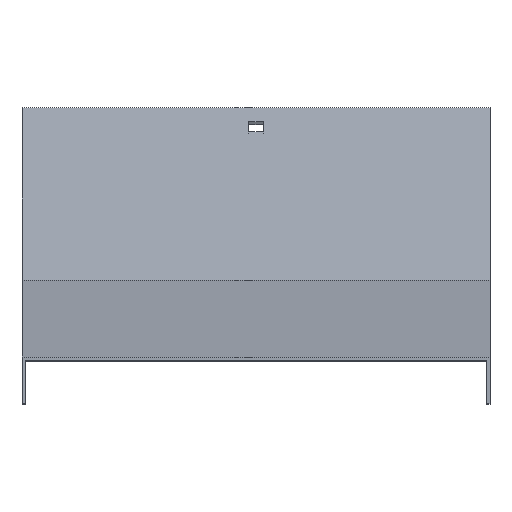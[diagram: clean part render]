
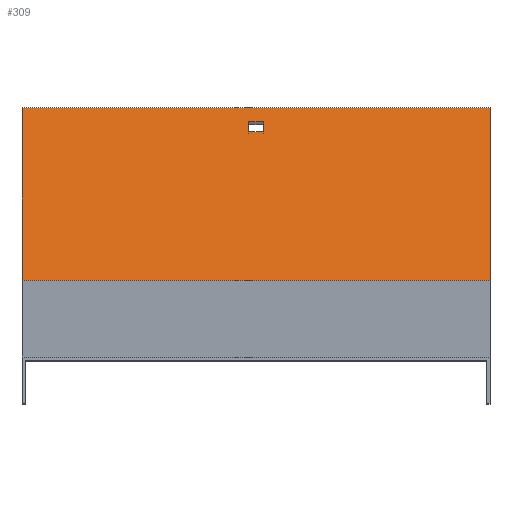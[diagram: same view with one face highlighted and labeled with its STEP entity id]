
A CAD part, top view. The second image highlights one B-rep face of the part: STEP entity #309.
In plain terms, the highlighted planar face has unit normal (0, 0.866, 0.5).
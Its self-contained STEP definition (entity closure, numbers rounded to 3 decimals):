
#15 = EDGE_CURVE ( 'NONE', #104, #172, #395, .T. ) ;
#26 = CARTESIAN_POINT ( 'NONE',  ( 101.5, 108.959, -406.64 ) ) ;
#60 = ORIENTED_EDGE ( 'NONE', *, *, #717, .F. ) ;
#65 = PLANE ( 'NONE',  #101 ) ;
#71 = EDGE_LOOP ( 'NONE', ( #584, #430, #83, #320 ) ) ;
#83 = ORIENTED_EDGE ( 'NONE', *, *, #812, .T. ) ;
#86 = CARTESIAN_POINT ( 'NONE',  ( -3.25, 98.459, -388.453 ) ) ;
#95 = CARTESIAN_POINT ( 'NONE',  ( 3.25, 98.459, -388.453 ) ) ;
#101 = AXIS2_PLACEMENT_3D ( 'NONE', #571, #254, #393 ) ;
#104 = VERTEX_POINT ( 'NONE', #192 ) ;
#113 = LINE ( 'NONE', #371, #305 ) ;
#121 = CARTESIAN_POINT ( 'NONE',  ( -3.25, 98.459, -388.453 ) ) ;
#137 = FACE_OUTER_BOUND ( 'NONE', #71, .T. ) ;
#139 = EDGE_CURVE ( 'NONE', #299, #165, #729, .T. ) ;
#141 = DIRECTION ( 'NONE',  ( 0., 0.5, -0.866 ) ) ;
#165 = VERTEX_POINT ( 'NONE', #704 ) ;
#172 = VERTEX_POINT ( 'NONE', #380 ) ;
#181 = LINE ( 'NONE', #121, #268 ) ;
#192 = CARTESIAN_POINT ( 'NONE',  ( 3.25, 102.959, -396.248 ) ) ;
#210 = FACE_BOUND ( 'NONE', #690, .T. ) ;
#254 = DIRECTION ( 'NONE',  ( 0., 0.866, 0.5 ) ) ;
#268 = VECTOR ( 'NONE', #310, 1000. ) ;
#285 = ORIENTED_EDGE ( 'NONE', *, *, #15, .F. ) ;
#288 = DIRECTION ( 'NONE',  ( 1., 0., 0. ) ) ;
#299 = VERTEX_POINT ( 'NONE', #649 ) ;
#305 = VECTOR ( 'NONE', #778, 1000. ) ;
#309 = ADVANCED_FACE ( 'NONE', ( #210, #137 ), #65, .T. ) ;
#310 = DIRECTION ( 'NONE',  ( 0., -0.5, 0.866 ) ) ;
#320 = ORIENTED_EDGE ( 'NONE', *, *, #536, .T. ) ;
#330 = CARTESIAN_POINT ( 'NONE',  ( 101.5, 108.959, -406.64 ) ) ;
#357 = CARTESIAN_POINT ( 'NONE',  ( 101.5, 34.009, -276.823 ) ) ;
#371 = CARTESIAN_POINT ( 'NONE',  ( 3.25, 98.459, -388.453 ) ) ;
#379 = ORIENTED_EDGE ( 'NONE', *, *, #492, .F. ) ;
#380 = CARTESIAN_POINT ( 'NONE',  ( -3.25, 102.959, -396.248 ) ) ;
#393 = DIRECTION ( 'NONE',  ( 0., -0.5, 0.866 ) ) ;
#395 = LINE ( 'NONE', #783, #794 ) ;
#416 = VERTEX_POINT ( 'NONE', #803 ) ;
#430 = ORIENTED_EDGE ( 'NONE', *, *, #557, .F. ) ;
#432 = DIRECTION ( 'NONE',  ( -1., 0., 0. ) ) ;
#439 = VECTOR ( 'NONE', #141, 1000. ) ;
#453 = LINE ( 'NONE', #472, #439 ) ;
#472 = CARTESIAN_POINT ( 'NONE',  ( 101.5, 34.009, -276.823 ) ) ;
#484 = LINE ( 'NONE', #26, #563 ) ;
#487 = VERTEX_POINT ( 'NONE', #357 ) ;
#492 = EDGE_CURVE ( 'NONE', #762, #416, #616, .T. ) ;
#536 = EDGE_CURVE ( 'NONE', #835, #165, #484, .T. ) ;
#546 = LINE ( 'NONE', #742, #575 ) ;
#557 = EDGE_CURVE ( 'NONE', #487, #299, #546, .T. ) ;
#563 = VECTOR ( 'NONE', #432, 1000. ) ;
#571 = CARTESIAN_POINT ( 'NONE',  ( 101.5, 34.009, -276.823 ) ) ;
#575 = VECTOR ( 'NONE', #687, 1000. ) ;
#584 = ORIENTED_EDGE ( 'NONE', *, *, #139, .F. ) ;
#608 = ORIENTED_EDGE ( 'NONE', *, *, #637, .F. ) ;
#616 = LINE ( 'NONE', #95, #796 ) ;
#637 = EDGE_CURVE ( 'NONE', #172, #762, #181, .T. ) ;
#644 = DIRECTION ( 'NONE',  ( -1., 0., 0. ) ) ;
#649 = CARTESIAN_POINT ( 'NONE',  ( -101.5, 34.009, -276.823 ) ) ;
#687 = DIRECTION ( 'NONE',  ( -1., 0., 0. ) ) ;
#690 = EDGE_LOOP ( 'NONE', ( #60, #379, #608, #285 ) ) ;
#704 = CARTESIAN_POINT ( 'NONE',  ( -101.5, 108.959, -406.64 ) ) ;
#717 = EDGE_CURVE ( 'NONE', #416, #104, #113, .T. ) ;
#729 = LINE ( 'NONE', #808, #759 ) ;
#742 = CARTESIAN_POINT ( 'NONE',  ( 101.5, 34.009, -276.823 ) ) ;
#743 = DIRECTION ( 'NONE',  ( 0., 0.5, -0.866 ) ) ;
#759 = VECTOR ( 'NONE', #743, 1000. ) ;
#762 = VERTEX_POINT ( 'NONE', #86 ) ;
#778 = DIRECTION ( 'NONE',  ( 0., 0.5, -0.866 ) ) ;
#783 = CARTESIAN_POINT ( 'NONE',  ( 3.25, 102.959, -396.248 ) ) ;
#794 = VECTOR ( 'NONE', #644, 1000. ) ;
#796 = VECTOR ( 'NONE', #288, 1000. ) ;
#803 = CARTESIAN_POINT ( 'NONE',  ( 3.25, 98.459, -388.453 ) ) ;
#808 = CARTESIAN_POINT ( 'NONE',  ( -101.5, 34.009, -276.823 ) ) ;
#812 = EDGE_CURVE ( 'NONE', #487, #835, #453, .T. ) ;
#835 = VERTEX_POINT ( 'NONE', #330 ) ;
